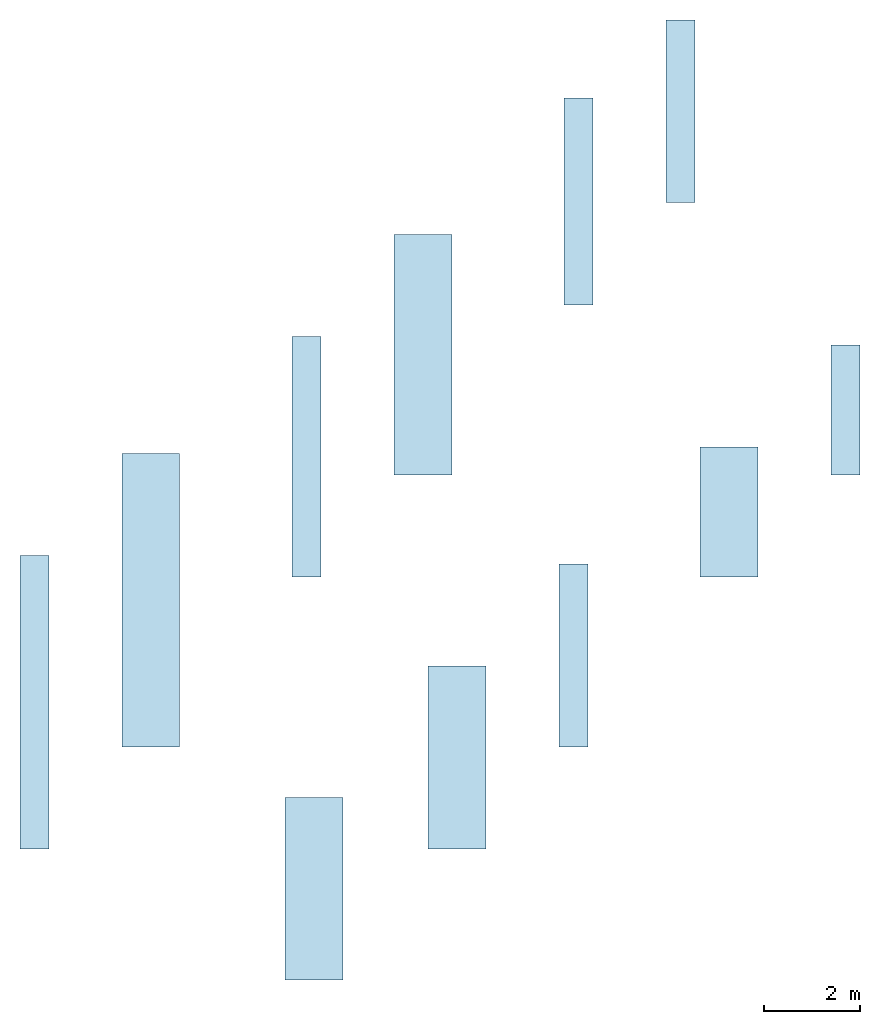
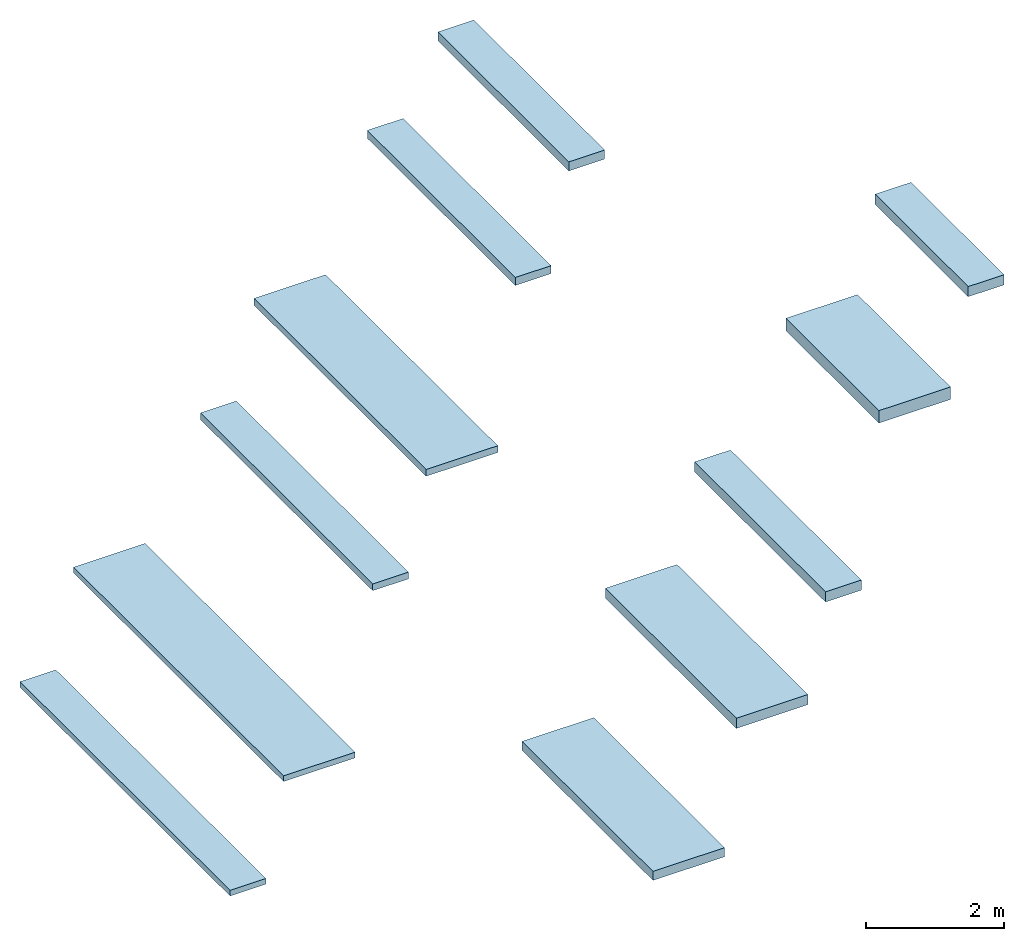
# One storey: 11 slabs, 11 elements without a shape of their own.
"""IFC2X3 building model written with IfcOpenShell, lengths in millimetres."""

from ifc_helpers import new_model, entity, si_unit, converted_unit, derived_unit, direction, frame, frame_2d, origin, place, context, subcontext, project, spatial, rectangle, extrude, material, layer, layer_set, element, aggregate, save


model = new_model("IFC2X3")

# Units and contexts
model_context = context("Model", 3, precision=0.01, world=origin(), true_north=direction((6.12303176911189e-17, 1.0)))
context_of_model = context(None, 3, precision=0.01, world=origin(), true_north=direction((6.12303176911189e-17, 1.0)))
body_context = subcontext(model_context, "Body", "Model", "MODEL_VIEW")
ifc_project = project(units=[si_unit("LENGTHUNIT", "METRE", prefix="MILLI"), si_unit("AREAUNIT", "SQUARE_METRE"), si_unit("VOLUMEUNIT", "CUBIC_METRE"), converted_unit("PLANEANGLEUNIT", "DEGREE", entity("IfcRatioMeasure", 0.0174532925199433), si_unit("PLANEANGLEUNIT", "RADIAN"), dimensions=[0, 0, 0, 0, 0, 0, 0]), si_unit("MASSUNIT", "GRAM", prefix="KILO"), derived_unit("MASSDENSITYUNIT", [(si_unit("MASSUNIT", "GRAM", prefix="KILO"), 1), (si_unit("LENGTHUNIT", "METRE"), -3)]), si_unit("TIMEUNIT", "SECOND"), si_unit("FREQUENCYUNIT", "HERTZ"), si_unit("THERMODYNAMICTEMPERATUREUNIT", "DEGREE_CELSIUS"), derived_unit("THERMALTRANSMITTANCEUNIT", [(si_unit("MASSUNIT", "GRAM", prefix="KILO"), 1), (si_unit("THERMODYNAMICTEMPERATUREUNIT", "KELVIN"), -1), (si_unit("TIMEUNIT", "SECOND"), -3)]), derived_unit("VOLUMETRICFLOWRATEUNIT", [(si_unit("LENGTHUNIT", "METRE"), 3), (si_unit("TIMEUNIT", "SECOND"), -1)]), si_unit("ELECTRICCURRENTUNIT", "AMPERE"), si_unit("ELECTRICVOLTAGEUNIT", "VOLT"), si_unit("POWERUNIT", "WATT"), si_unit("FORCEUNIT", "NEWTON", prefix="KILO"), si_unit("ILLUMINANCEUNIT", "LUX"), si_unit("LUMINOUSFLUXUNIT", "LUMEN"), si_unit("LUMINOUSINTENSITYUNIT", "CANDELA"), derived_unit("USERDEFINED", [(si_unit("MASSUNIT", "GRAM", prefix="KILO"), -1), (si_unit("LENGTHUNIT", "METRE"), -2), (si_unit("TIMEUNIT", "SECOND"), 3), (si_unit("LUMINOUSFLUXUNIT", "LUMEN"), 1)]), derived_unit("LINEARVELOCITYUNIT", [(si_unit("LENGTHUNIT", "METRE"), 1), (si_unit("TIMEUNIT", "SECOND"), -1)]), si_unit("PRESSUREUNIT", "PASCAL"), derived_unit("USERDEFINED", [(si_unit("LENGTHUNIT", "METRE"), -2), (si_unit("MASSUNIT", "GRAM", prefix="KILO"), 1), (si_unit("TIMEUNIT", "SECOND"), -2)])], contexts=[model_context, context_of_model])

# Site, building, storey
site_placement = place(None, origin())
site = spatial("IfcSite", under=ifc_project, at=site_placement, Name="Default", CompositionType="ELEMENT")
building_placement = place(site_placement, origin())
building = spatial("IfcBuilding", under=site, at=building_placement, CompositionType="ELEMENT")
storey_placement = place(building_placement, origin())
storey = spatial("IfcBuildingStorey", under=building, at=storey_placement, Name="Level 1", CompositionType="ELEMENT", Elevation=0.0)

# Roof, slab
roof_1_placement = place(storey_placement, frame((281.951371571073, -2520.97880299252, 0.0)))
roof_1 = element("IfcRoof", 1, at=roof_1_placement, inside=storey, Name="Basic Roof:NLRS_27_RO_Mineral Wool 34 Alu Plus_100x600x6100mm:4934", ObjectType="Basic Roof:NLRS_27_RO_Mineral Wool 34 Alu Plus_100x600x6100mm", ShapeType="NOTDEFINED")
ifc_material = material(Name="Knauf Insulation_Mineral Wool 34 Alu Plus Ecose®minerale wol")
ifc_layer_1 = layer(ifc_material, 100.0)
ifc_layer_set_1 = layer_set([ifc_layer_1], Name="Basic Roof:NLRS_27_RO_Mineral Wool 34 Alu Plus_100x600x6100mm")
slab_1_placement = place(roof_1_placement, origin())
slab_1 = element("IfcSlab", 2, at=slab_1_placement, material=ifc_layer_set_1, Name="Basic Roof:NLRS_27_RO_Mineral Wool 34 Alu Plus_100x600x6100mm:4934", ObjectType="Basic Roof:NLRS_27_RO_Mineral Wool 34 Alu Plus_100x600x6100mm", PredefinedType="ROOF", context=body_context, shape_type="SweptSolid", body=[
    extrude(rectangle(XDim=600.0, YDim=6100.0, at=frame_2d((0.0, 0.0), x_axis=(-1.0, 0.0))), frame((300.0, 3050.0, 0.0)), (0.0, 0.0, 1.0), 100.0),
])
aggregate(roof_1, [slab_1])

roof_2_placement = place(storey_placement, frame((2403.27171513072, -399.65845943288, 0.0)))
roof_2 = element("IfcRoof", 3, at=roof_2_placement, inside=storey, Name="Basic Roof:NLRS_27_RO_Mineral Wool 34 Alu Plus_100x1200x6100mm:4963", ObjectType="Basic Roof:NLRS_27_RO_Mineral Wool 34 Alu Plus_100x1200x6100mm", ShapeType="NOTDEFINED")
ifc_layer_2 = layer(ifc_material, 100.0)
ifc_layer_set_2 = layer_set([ifc_layer_2], Name="Basic Roof:NLRS_27_RO_Mineral Wool 34 Alu Plus_100x1200x6100mm")
slab_2_placement = place(roof_2_placement, origin())
slab_2 = element("IfcSlab", 4, at=slab_2_placement, material=ifc_layer_set_2, Name="Basic Roof:NLRS_27_RO_Mineral Wool 34 Alu Plus_100x1200x6100mm:4963", ObjectType="Basic Roof:NLRS_27_RO_Mineral Wool 34 Alu Plus_100x1200x6100mm", PredefinedType="ROOF", context=body_context, shape_type="SweptSolid", body=[
    extrude(rectangle(XDim=1200.0, YDim=6100.0, at=frame_2d((0.0, 0.0), x_axis=(-1.0, 0.0))), frame((600.0, 3050.0, 0.0)), (0.0, 0.0, 1.0), 100.0),
])
aggregate(roof_2, [slab_2])

roof_3_placement = place(storey_placement, frame((5938.80562106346, 3135.87544649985, 0.0)))
roof_3 = element("IfcRoof", 5, at=roof_3_placement, inside=storey, Name="Basic Roof:NLRS_27_RO_Mineral Wool 34 Alu Plus_120x600x5000mm:5124", ObjectType="Basic Roof:NLRS_27_RO_Mineral Wool 34 Alu Plus_120x600x5000mm", ShapeType="NOTDEFINED")
ifc_layer_3 = layer(ifc_material, 120.0)
ifc_layer_set_3 = layer_set([ifc_layer_3], Name="Basic Roof:NLRS_27_RO_Mineral Wool 34 Alu Plus_120x600x5000mm")
slab_3_placement = place(roof_3_placement, origin())
slab_3 = element("IfcSlab", 6, at=slab_3_placement, material=ifc_layer_set_3, Name="Basic Roof:NLRS_27_RO_Mineral Wool 34 Alu Plus_120x600x5000mm:5124", ObjectType="Basic Roof:NLRS_27_RO_Mineral Wool 34 Alu Plus_120x600x5000mm", PredefinedType="ROOF", context=body_context, shape_type="SweptSolid", body=[
    extrude(rectangle(XDim=600.0, YDim=5000.0, at=frame_2d((0.0, 1.13686837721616e-12), x_axis=(-1.0, 0.0))), frame((300.0, 2500.0, 0.0)), (0.0, 0.0, 1.0), 120.0),
])
aggregate(roof_3, [slab_3])

roof_4_placement = place(storey_placement, frame((8060.1259646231, 5257.19579005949, 0.0)))
roof_4 = element("IfcRoof", 7, at=roof_4_placement, inside=storey, Name="Basic Roof:NLRS_27_RO_Mineral Wool 34 Alu Plus_120x1200x5000mm:5133", ObjectType="Basic Roof:NLRS_27_RO_Mineral Wool 34 Alu Plus_120x1200x5000mm", ShapeType="NOTDEFINED")
ifc_layer_4 = layer(ifc_material, 120.0)
ifc_layer_set_4 = layer_set([ifc_layer_4], Name="Basic Roof:NLRS_27_RO_Mineral Wool 34 Alu Plus_120x1200x5000mm")
slab_4_placement = place(roof_4_placement, origin())
slab_4 = element("IfcSlab", 8, at=slab_4_placement, material=ifc_layer_set_4, Name="Basic Roof:NLRS_27_RO_Mineral Wool 34 Alu Plus_120x1200x5000mm:5133", ObjectType="Basic Roof:NLRS_27_RO_Mineral Wool 34 Alu Plus_120x1200x5000mm", PredefinedType="ROOF", context=body_context, shape_type="SweptSolid", body=[
    extrude(rectangle(XDim=1200.0, YDim=5000.0, at=frame_2d((0.0, -4.54747350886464e-13), x_axis=(-1.0, 0.0))), frame((600.0, 2500.0, 0.0)), (0.0, 0.0, 1.0), 120.0),
])
aggregate(roof_4, [slab_4])

roof_5_placement = place(storey_placement, frame((11595.6598705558, 8792.72969599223, 0.0)))
roof_5 = element("IfcRoof", 9, at=roof_5_placement, inside=storey, Name="Basic Roof:NLRS_27_RO_Mineral Wool 34 Alu Plus_140x600x4300mm:5226", ObjectType="Basic Roof:NLRS_27_RO_Mineral Wool 34 Alu Plus_140x600x4300mm", ShapeType="NOTDEFINED")
ifc_layer_5 = layer(ifc_material, 140.0)
ifc_layer_set_5 = layer_set([ifc_layer_5], Name="Basic Roof:NLRS_27_RO_Mineral Wool 34 Alu Plus_140x600x4300mm")
slab_5_placement = place(roof_5_placement, origin())
slab_5 = element("IfcSlab", 10, at=slab_5_placement, material=ifc_layer_set_5, Name="Basic Roof:NLRS_27_RO_Mineral Wool 34 Alu Plus_140x600x4300mm:5226", ObjectType="Basic Roof:NLRS_27_RO_Mineral Wool 34 Alu Plus_140x600x4300mm", PredefinedType="ROOF", context=body_context, shape_type="SweptSolid", body=[
    extrude(rectangle(XDim=600.000000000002, YDim=4300.0, at=frame_2d((0.0, -1.13686837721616e-12), x_axis=(-1.0, 0.0))), frame((300.0, 2150.0, 0.0)), (0.0, 0.0, 1.0), 140.0),
])
aggregate(roof_5, [slab_5])

roof_6_placement = place(storey_placement, frame((13716.9802141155, 10914.0500395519, 0.0)))
roof_6 = element("IfcRoof", 11, at=roof_6_placement, inside=storey, Name="Basic Roof:NLRS_27_RO_Mineral Wool 34 Alu Plus_160x600x3800mm:5233", ObjectType="Basic Roof:NLRS_27_RO_Mineral Wool 34 Alu Plus_160x600x3800mm", ShapeType="NOTDEFINED")
ifc_layer_6 = layer(ifc_material, 160.0)
ifc_layer_set_6 = layer_set([ifc_layer_6], Name="Basic Roof:NLRS_27_RO_Mineral Wool 34 Alu Plus_160x600x3800mm")
slab_6_placement = place(roof_6_placement, origin())
slab_6 = element("IfcSlab", 12, at=slab_6_placement, material=ifc_layer_set_6, Name="Basic Roof:NLRS_27_RO_Mineral Wool 34 Alu Plus_160x600x3800mm:5233", ObjectType="Basic Roof:NLRS_27_RO_Mineral Wool 34 Alu Plus_160x600x3800mm", PredefinedType="ROOF", context=body_context, shape_type="SweptSolid", body=[
    extrude(rectangle(XDim=600.0, YDim=3800.0, at=frame_2d((-1.08002495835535e-12, -1.02318153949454e-12), x_axis=(-1.0, 0.0))), frame((300.0, 1900.0, 0.0)), (0.0, 0.0, 1.0), 160.0),
])
aggregate(roof_6, [slab_6])

roof_7_placement = place(storey_placement, frame((8767.23274580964, -2520.97880299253, 0.0)))
roof_7 = element("IfcRoof", 13, at=roof_7_placement, inside=storey, Name="Basic Roof:NLRS_27_RO_Mineral Wool 34 Alu Plus_180x1200x3400mm:5939", ObjectType="Basic Roof:NLRS_27_RO_Mineral Wool 34 Alu Plus_180x1200x3400mm", ShapeType="NOTDEFINED")
ifc_layer_7 = layer(ifc_material, 180.0)
ifc_layer_set_7 = layer_set([ifc_layer_7], Name="Basic Roof:NLRS_27_RO_Mineral Wool 34 Alu Plus_180x1200x3400mm")
slab_7_placement = place(roof_7_placement, origin())
slab_7 = element("IfcSlab", 14, at=slab_7_placement, material=ifc_layer_set_7, Name="Basic Roof:NLRS_27_RO_Mineral Wool 34 Alu Plus_180x1200x3400mm:5939", ObjectType="Basic Roof:NLRS_27_RO_Mineral Wool 34 Alu Plus_180x1200x3400mm", PredefinedType="ROOF", context=body_context, shape_type="SweptSolid", body=[
    extrude(rectangle(XDim=1200.0, YDim=3800.0, at=frame_2d((0.0, 0.0), x_axis=(-1.0, 0.0))), frame((600.0, 1900.0, 0.0)), (0.0, 0.0, 1.0), 180.0),
])
aggregate(roof_7, [slab_7])

roof_8_placement = place(storey_placement, frame((5795.91240224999, -5248.51692920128, 0.0)))
roof_8 = element("IfcRoof", 15, at=roof_8_placement, inside=storey, Name="Basic Roof:NLRS_27_RO_Mineral Wool 34 Alu Plus_160x1200x3800mm:6059", ObjectType="Basic Roof:NLRS_27_RO_Mineral Wool 34 Alu Plus_160x1200x3800mm", ShapeType="NOTDEFINED")
ifc_layer_8 = layer(ifc_material, 160.0)
ifc_layer_set_8 = layer_set([ifc_layer_8], Name="Basic Roof:NLRS_27_RO_Mineral Wool 34 Alu Plus_160x1200x3800mm")
slab_8_placement = place(roof_8_placement, origin())
slab_8 = element("IfcSlab", 16, at=slab_8_placement, material=ifc_layer_set_8, Name="Basic Roof:NLRS_27_RO_Mineral Wool 34 Alu Plus_160x1200x3800mm:6059", ObjectType="Basic Roof:NLRS_27_RO_Mineral Wool 34 Alu Plus_160x1200x3800mm", PredefinedType="ROOF", context=body_context, shape_type="SweptSolid", body=[
    extrude(rectangle(XDim=1200.0, YDim=3800.0, at=frame_2d((0.0, 0.0), x_axis=(-1.0, 0.0))), frame((600.0, 1900.0, 0.0)), (0.0, 0.0, 1.0), 160.0),
])
aggregate(roof_8, [slab_8])

roof_9_placement = place(storey_placement, frame((11488.5530893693, -399.658459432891, 0.0)))
roof_9 = element("IfcRoof", 17, at=roof_9_placement, inside=storey, Name="Basic Roof:NLRS_27_RO_Mineral Wool 34 Alu Plus_180x600x3400mm:6156", ObjectType="Basic Roof:NLRS_27_RO_Mineral Wool 34 Alu Plus_180x600x3400mm", ShapeType="NOTDEFINED")
ifc_layer_9 = layer(ifc_material, 180.0)
ifc_layer_set_9 = layer_set([ifc_layer_9], Name="Basic Roof:NLRS_27_RO_Mineral Wool 34 Alu Plus_180x600x3400mm")
slab_9_placement = place(roof_9_placement, origin())
slab_9 = element("IfcSlab", 18, at=slab_9_placement, material=ifc_layer_set_9, Name="Basic Roof:NLRS_27_RO_Mineral Wool 34 Alu Plus_180x600x3400mm:6156", ObjectType="Basic Roof:NLRS_27_RO_Mineral Wool 34 Alu Plus_180x600x3400mm", PredefinedType="ROOF", context=body_context, shape_type="SweptSolid", body=[
    extrude(rectangle(XDim=600.0, YDim=3800.0, at=frame_2d((-1.08002495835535e-12, 0.0), x_axis=(-1.0, 0.0))), frame((300.0, 1900.0, 0.0)), (0.0, 0.0, 1.0), 180.0),
])
aggregate(roof_9, [slab_9])

roof_10_placement = place(storey_placement, frame((14424.086995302, 3135.87544649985, 0.0)))
roof_10 = element("IfcRoof", 19, at=roof_10_placement, inside=storey, Name="Basic Roof:NLRS_27_RO_Mineral Wool 34 Alu Plus_220x1200x2700mm:6230", ObjectType="Basic Roof:NLRS_27_RO_Mineral Wool 34 Alu Plus_220x1200x2700mm", ShapeType="NOTDEFINED")
ifc_layer_10 = layer(ifc_material, 220.0)
ifc_layer_set_10 = layer_set([ifc_layer_10], Name="Basic Roof:NLRS_27_RO_Mineral Wool 34 Alu Plus_220x1200x2700mm")
slab_10_placement = place(roof_10_placement, origin())
slab_10 = element("IfcSlab", 20, at=slab_10_placement, material=ifc_layer_set_10, Name="Basic Roof:NLRS_27_RO_Mineral Wool 34 Alu Plus_220x1200x2700mm:6230", ObjectType="Basic Roof:NLRS_27_RO_Mineral Wool 34 Alu Plus_220x1200x2700mm", PredefinedType="ROOF", context=body_context, shape_type="SweptSolid", body=[
    extrude(rectangle(XDim=1200.0, YDim=2700.0, at=frame_2d((0.0, 0.0), x_axis=(-1.0, 0.0))), frame((600.0, 1350.0, 0.0)), (0.0, 0.0, 1.0), 220.0),
])
aggregate(roof_10, [slab_10])

roof_11_placement = place(storey_placement, frame((17145.4073388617, 5257.19579005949, 0.0)))
roof_11 = element("IfcRoof", 21, at=roof_11_placement, inside=storey, Name="Basic Roof:NLRS_27_RO_Mineral Wool 34 Alu Plus_220x600x2700mm:6239", ObjectType="Basic Roof:NLRS_27_RO_Mineral Wool 34 Alu Plus_220x600x2700mm", ShapeType="NOTDEFINED")
ifc_layer_11 = layer(ifc_material, 180.0)
ifc_layer_set_11 = layer_set([ifc_layer_11], Name="Basic Roof:NLRS_27_RO_Mineral Wool 34 Alu Plus_220x600x2700mm")
slab_11_placement = place(roof_11_placement, origin())
slab_11 = element("IfcSlab", 22, at=slab_11_placement, material=ifc_layer_set_11, Name="Basic Roof:NLRS_27_RO_Mineral Wool 34 Alu Plus_220x600x2700mm:6239", ObjectType="Basic Roof:NLRS_27_RO_Mineral Wool 34 Alu Plus_220x600x2700mm", PredefinedType="ROOF", context=body_context, shape_type="SweptSolid", body=[
    extrude(rectangle(XDim=600.0, YDim=2700.0, at=frame_2d((1.08002495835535e-12, 5.6843418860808e-13), x_axis=(-1.0, 0.0))), frame((300.0, 1350.0, 0.0)), (0.0, 0.0, 1.0), 180.0),
])
aggregate(roof_11, [slab_11])

save(model, "model.ifc")
